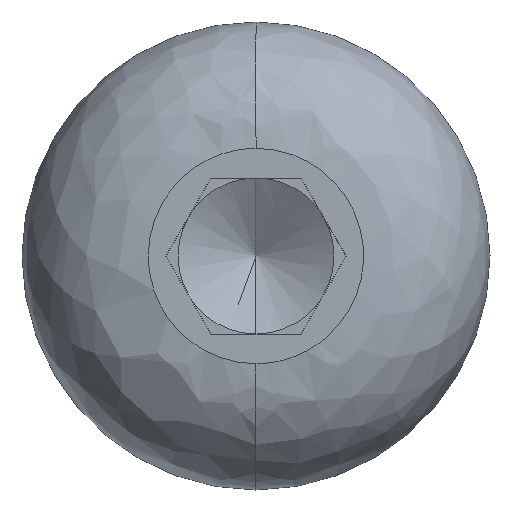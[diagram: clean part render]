
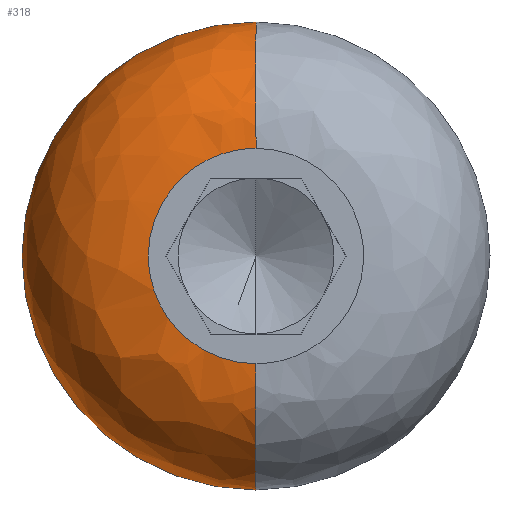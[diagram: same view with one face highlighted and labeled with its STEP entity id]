
A CAD part, left-side view. The second image highlights one B-rep face of the part: STEP entity #318.
In plain terms, the highlighted free-form (B-spline) face has degree [3, 3] with [4, 4] control points.
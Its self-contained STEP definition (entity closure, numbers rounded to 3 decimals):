
#8 =( BOUNDED_CURVE ( )  B_SPLINE_CURVE ( 3, ( #659, #281, #781, #406 ),
 .UNSPECIFIED., .F., .F. ) 
 B_SPLINE_CURVE_WITH_KNOTS ( ( 4, 4 ),
 ( 0., 1. ),
 .UNSPECIFIED. ) 
 CURVE ( )  GEOMETRIC_REPRESENTATION_ITEM ( )  RATIONAL_B_SPLINE_CURVE ( ( 1., 0.805, 0.805, 1. ) ) 
 REPRESENTATION_ITEM ( '' )  );
#9 = AXIS2_PLACEMENT_3D ( 'NONE', #740, #733, #729 ) ;
#19 = CARTESIAN_POINT ( 'NONE',  ( 0., 0., -2.76 ) ) ;
#23 = DIRECTION ( 'NONE',  ( 1., 0., 0. ) ) ;
#29 = CIRCLE ( 'NONE', #590, 3.24 ) ;
#72 =( BOUNDED_SURFACE ( )  B_SPLINE_SURFACE ( 3, 3, ( 
 ( #748, #725, #668, #665 ),
 ( #661, #658, #655, #650 ),
 ( #646, #644, #639, #635 ),
 ( #628, #614, #605, #601 ) ),
 .UNSPECIFIED., .F., .F., .F. ) 
 B_SPLINE_SURFACE_WITH_KNOTS ( ( 4, 4 ),
 ( 4, 4 ),
 ( 0., 1. ),
 ( 0., 1. ),
 .UNSPECIFIED. ) 
 GEOMETRIC_REPRESENTATION_ITEM ( )  RATIONAL_B_SPLINE_SURFACE ( (
 ( 1., 0.333, 0.333, 1.),
 ( 0.805, 0.268, 0.268, 0.805),
 ( 0.805, 0.268, 0.268, 0.805),
 ( 1., 0.333, 0.333, 1.) ) ) 
 REPRESENTATION_ITEM ( '' )  SURFACE ( )  );
#132 = CARTESIAN_POINT ( 'NONE',  ( 3.24, 0., 2.76 ) ) ;
#160 = VERTEX_POINT ( 'NONE', #562 ) ;
#165 = AXIS2_PLACEMENT_3D ( 'NONE', #415, #23, #480 ) ;
#167 = CARTESIAN_POINT ( 'NONE',  ( 3.24, 0., -6. ) ) ;
#179 = DIRECTION ( 'NONE',  ( 0., 0., 1. ) ) ;
#184 = DIRECTION ( 'NONE',  ( 0., 1., 0. ) ) ;
#192 = EDGE_CURVE ( 'NONE', #160, #194, #205, .T. ) ;
#194 = VERTEX_POINT ( 'NONE', #315 ) ;
#205 =( BOUNDED_CURVE ( )  B_SPLINE_CURVE ( 3, ( #412, #433, #284, #322 ),
 .UNSPECIFIED., .F., .T. ) 
 B_SPLINE_CURVE_WITH_KNOTS ( ( 4, 4 ),
 ( 0., 1. ),
 .UNSPECIFIED. ) 
 CURVE ( )  GEOMETRIC_REPRESENTATION_ITEM ( )  RATIONAL_B_SPLINE_CURVE ( ( 1., 0.805, 0.805, 1. ) ) 
 REPRESENTATION_ITEM ( '' )  );
#254 = EDGE_LOOP ( 'NONE', ( #376, #805, #793, #790, #774 ) ) ;
#281 = CARTESIAN_POINT ( 'NONE',  ( 0., 1.617, -2.76 ) ) ;
#284 = CARTESIAN_POINT ( 'NONE',  ( 0., 1.617, 2.76 ) ) ;
#296 = EDGE_CURVE ( 'NONE', #630, #561, #368, .T. ) ;
#315 = CARTESIAN_POINT ( 'NONE',  ( 0., 0., 2.76 ) ) ;
#318 = ADVANCED_FACE ( 'NONE', ( #532 ), #72, .T. ) ;
#322 = CARTESIAN_POINT ( 'NONE',  ( 0., 0., 2.76 ) ) ;
#368 = CIRCLE ( 'NONE', #9, 3.24 ) ;
#376 = ORIENTED_EDGE ( 'NONE', *, *, #296, .F. ) ;
#406 = CARTESIAN_POINT ( 'NONE',  ( 0., 2.76, 0. ) ) ;
#412 = CARTESIAN_POINT ( 'NONE',  ( 0., 2.76, 0. ) ) ;
#415 = CARTESIAN_POINT ( 'NONE',  ( 3.24, 0., 0. ) ) ;
#417 = VERTEX_POINT ( 'NONE', #470 ) ;
#433 = CARTESIAN_POINT ( 'NONE',  ( 0., 2.76, 1.617 ) ) ;
#470 = CARTESIAN_POINT ( 'NONE',  ( 3.24, 0., 6. ) ) ;
#480 = DIRECTION ( 'NONE',  ( 0., 0., 1. ) ) ;
#532 = FACE_OUTER_BOUND ( 'NONE', #254, .T. ) ;
#561 = VERTEX_POINT ( 'NONE', #167 ) ;
#562 = CARTESIAN_POINT ( 'NONE',  ( 0., 2.76, 0. ) ) ;
#573 = EDGE_CURVE ( 'NONE', #194, #417, #29, .T. ) ;
#590 = AXIS2_PLACEMENT_3D ( 'NONE', #132, #184, #179 ) ;
#601 = CARTESIAN_POINT ( 'NONE',  ( 3.24, 0., -6. ) ) ;
#605 = CARTESIAN_POINT ( 'NONE',  ( 3.24, 12., -6. ) ) ;
#614 = CARTESIAN_POINT ( 'NONE',  ( 3.24, 12., 6. ) ) ;
#628 = CARTESIAN_POINT ( 'NONE',  ( 3.24, 0., 6. ) ) ;
#630 = VERTEX_POINT ( 'NONE', #19 ) ;
#635 = CARTESIAN_POINT ( 'NONE',  ( 1.342, 0., -6. ) ) ;
#639 = CARTESIAN_POINT ( 'NONE',  ( 1.342, 12., -6. ) ) ;
#644 = CARTESIAN_POINT ( 'NONE',  ( 1.342, 12., 6. ) ) ;
#646 = CARTESIAN_POINT ( 'NONE',  ( 1.342, 0., 6. ) ) ;
#650 = CARTESIAN_POINT ( 'NONE',  ( 0., 0., -4.658 ) ) ;
#653 = CIRCLE ( 'NONE', #165, 6. ) ;
#655 = CARTESIAN_POINT ( 'NONE',  ( 0., 9.316, -4.658 ) ) ;
#658 = CARTESIAN_POINT ( 'NONE',  ( 0., 9.316, 4.658 ) ) ;
#659 = CARTESIAN_POINT ( 'NONE',  ( 0., 0., -2.76 ) ) ;
#661 = CARTESIAN_POINT ( 'NONE',  ( 0., 0., 4.658 ) ) ;
#665 = CARTESIAN_POINT ( 'NONE',  ( 0., 0., -2.76 ) ) ;
#668 = CARTESIAN_POINT ( 'NONE',  ( 0., 5.52, -2.76 ) ) ;
#725 = CARTESIAN_POINT ( 'NONE',  ( 0., 5.52, 2.76 ) ) ;
#729 = DIRECTION ( 'NONE',  ( 0., 0., -1. ) ) ;
#733 = DIRECTION ( 'NONE',  ( 0., -1., 0. ) ) ;
#740 = CARTESIAN_POINT ( 'NONE',  ( 3.24, 0., -2.76 ) ) ;
#748 = CARTESIAN_POINT ( 'NONE',  ( 0., 0., 2.76 ) ) ;
#756 = EDGE_CURVE ( 'NONE', #630, #160, #8, .T. ) ;
#774 = ORIENTED_EDGE ( 'NONE', *, *, #816, .F. ) ;
#781 = CARTESIAN_POINT ( 'NONE',  ( 0., 2.76, -1.617 ) ) ;
#790 = ORIENTED_EDGE ( 'NONE', *, *, #573, .T. ) ;
#793 = ORIENTED_EDGE ( 'NONE', *, *, #192, .T. ) ;
#805 = ORIENTED_EDGE ( 'NONE', *, *, #756, .T. ) ;
#816 = EDGE_CURVE ( 'NONE', #561, #417, #653, .T. ) ;
